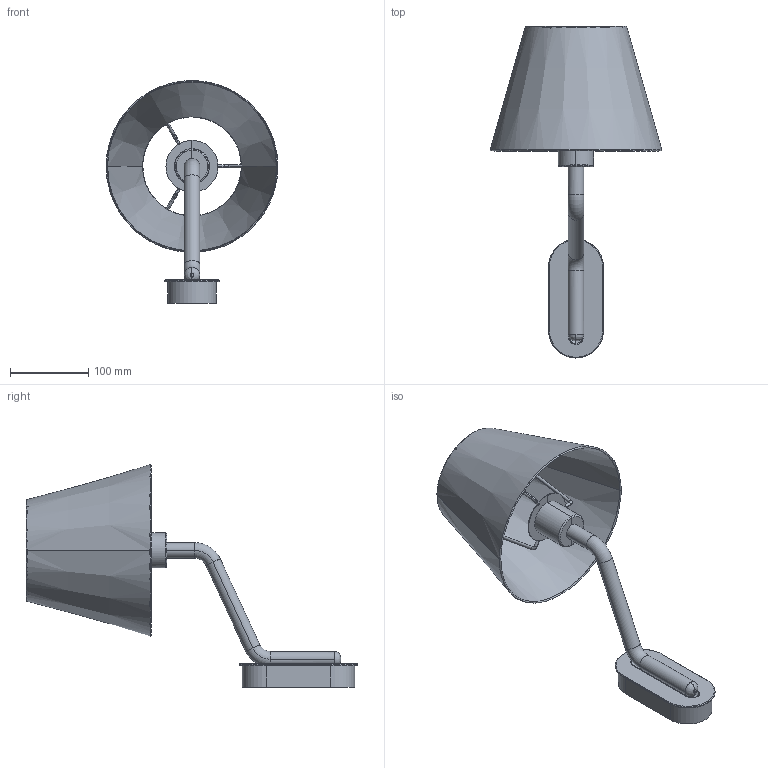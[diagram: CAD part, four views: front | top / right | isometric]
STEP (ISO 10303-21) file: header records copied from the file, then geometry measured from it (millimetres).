
FILE_DESCRIPTION(/* description */ (''),/* implementation_level */ '2;1');
FILE_NAME(/* name */ 'C:\Users\FrancoSartori\Documents\FARO\01_En Proceso\00_ETERNA\03_Publicación\24005-11.stp',/* time_stamp */ '2021-06-01T11:12:13+02:00',/* author */ ('FrancoSartori'),/* organization */ (''),/* preprocessor_version */ 'ST-DEVELOPER v18.1',/* originating_system */ 'AutoCAD Mechanical',/* authorisation */ '');
FILE_SCHEMA (('AUTOMOTIVE_DESIGN { 1 0 10303 214 3 1 1 }'));
Length unit declared in the file: millimetre
Products named in the file (3): Product; 24005-10_ 24005-11_ 24005-12_ - structure-561495-_3D_; 2P0212 - 2P0211 White textile shade-561509-_3D_
Assembly tree (2 placements, depth 2):
  Product
    24005-10_ 24005-11_ 24005-12_ - structure-561495-_3D_
    2P0212 - 2P0211 White textile shade-561509-_3D_
Bounding box: 220 x 424.95 x 285.37 mm (x, y, z)
Volume: 303246.4 mm3; surface area: 456711.8 mm2
Topology: 11 solids, 11 shells, 149 faces, 345 edges, 214 vertices
Faces by surface type: cylinder 54, plane 49, torus 24, cone 12, bspline 10
Entity records: 6347 total; most frequent: CARTESIAN_POINT 3085, ORIENTED_EDGE 690, DIRECTION 589, EDGE_CURVE 345, AXIS2_PLACEMENT_3D 226, VERTEX_POINT 214, EDGE_LOOP 159, FACE_OUTER_BOUND 149
